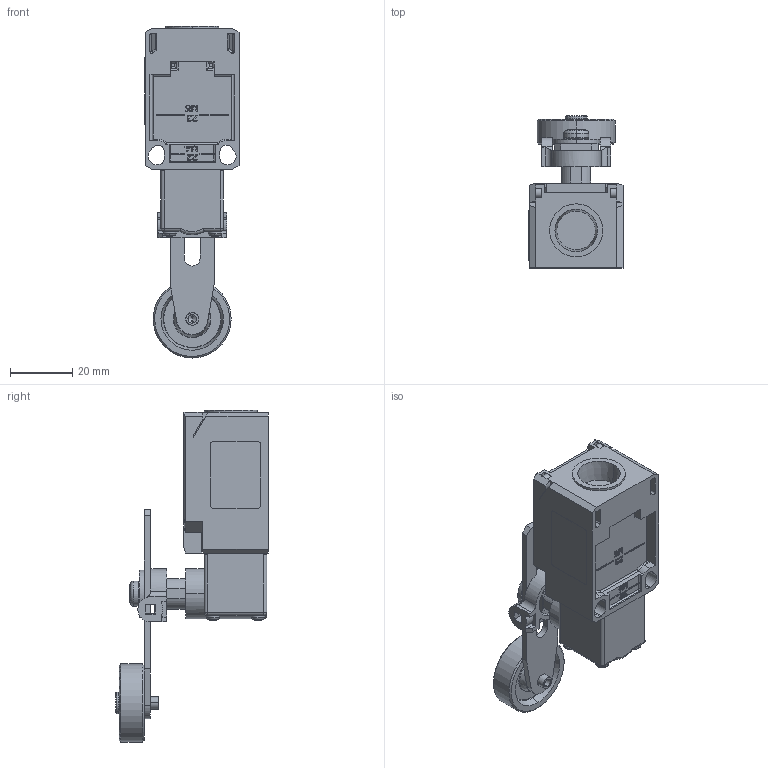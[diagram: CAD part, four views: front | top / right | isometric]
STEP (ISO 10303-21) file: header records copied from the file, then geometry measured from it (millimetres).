
FILE_DESCRIPTION((''),'2;1');
FILE_NAME('TI2-AV','2014-07-23T',('Yvonne.Storm'),(''),'PRO/ENGINEER BY PARAMETRIC TECHNOLOGY CORPORATION, 2012360','PRO/ENGINEER BY PARAMETRIC TECHNOLOGY CORPORATION, 2012360','');
FILE_SCHEMA(('AUTOMOTIVE_DESIGN { 1 0 10303 214 1 1 1 1 }'));
Products named in the file (1): TI2-AV
Bounding box: 30.1 x 48.85 x 106.3 mm (x, y, z)
Volume: 28321.8 mm3; surface area: 26086.9 mm2
Topology: 2 solids, 2 shells, 1652 faces, 4343 edges, 2696 vertices
Faces by surface type: plane 1094, cylinder 330, cone 81, sphere 68, torus 63, bspline 16
Entity records: 78401 total; most frequent: CARTESIAN_POINT 11558, ORIENTED_EDGE 8650, DIRECTION 8261, PRESENTATION_STYLE_ASSIGNMENT 5971, STYLED_ITEM 4332, CURVE_STYLE 4325, EDGE_CURVE 4325, VECTOR 2937
